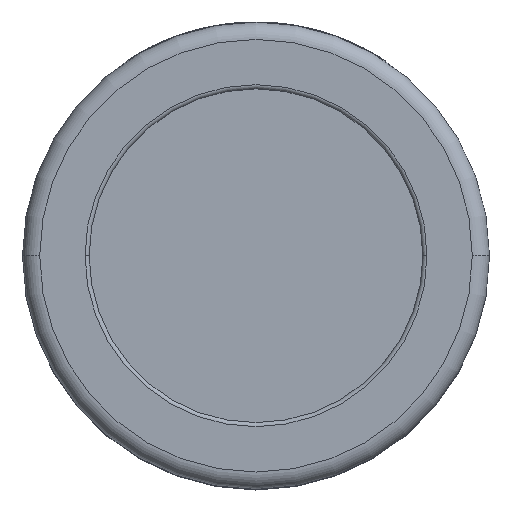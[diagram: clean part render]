
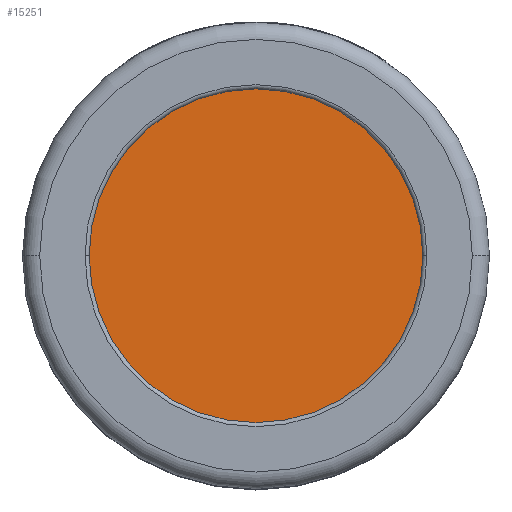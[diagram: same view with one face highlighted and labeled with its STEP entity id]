
A CAD part, top view. The second image highlights one B-rep face of the part: STEP entity #15251.
In plain terms, the highlighted planar face has unit normal (0, 0, 1).
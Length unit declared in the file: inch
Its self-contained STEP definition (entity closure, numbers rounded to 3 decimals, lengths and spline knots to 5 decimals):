
#115 = CIRCLE ( 'NONE', #48316, 1.245 ) ;
#9739 = DIRECTION ( 'NONE',  ( 1., 0., 0. ) ) ;
#11020 = CARTESIAN_POINT ( 'NONE',  ( 0., 0., 3.02 ) ) ;
#12110 = AXIS2_PLACEMENT_3D ( 'NONE', #38533, #48052, #9739 ) ;
#15251 = ADVANCED_FACE ( 'NONE', ( #18159 ), #47771, .T. ) ;
#15502 = DIRECTION ( 'NONE',  ( 0., 0., 1. ) ) ;
#17169 = EDGE_CURVE ( 'NONE', #34790, #29875, #34784, .T. ) ;
#18159 = FACE_OUTER_BOUND ( 'NONE', #26555, .T. ) ;
#25885 = AXIS2_PLACEMENT_3D ( 'NONE', #11020, #15502, #32522 ) ;
#26555 = EDGE_LOOP ( 'NONE', ( #27385, #39840 ) ) ;
#27385 = ORIENTED_EDGE ( 'NONE', *, *, #30702, .T. ) ;
#29875 = VERTEX_POINT ( 'NONE', #41891 ) ;
#30702 = EDGE_CURVE ( 'NONE', #29875, #34790, #115, .T. ) ;
#32522 = DIRECTION ( 'NONE',  ( 1., 0., 0. ) ) ;
#34784 = CIRCLE ( 'NONE', #25885, 1.245 ) ;
#34790 = VERTEX_POINT ( 'NONE', #39951 ) ;
#37140 = DIRECTION ( 'NONE',  ( 0., 0., 1. ) ) ;
#38533 = CARTESIAN_POINT ( 'NONE',  ( 0., 0., 3.02 ) ) ;
#39840 = ORIENTED_EDGE ( 'NONE', *, *, #17169, .T. ) ;
#39951 = CARTESIAN_POINT ( 'NONE',  ( -1.245, 0., 3.02 ) ) ;
#41890 = CARTESIAN_POINT ( 'NONE',  ( 0., 0., 3.02 ) ) ;
#41891 = CARTESIAN_POINT ( 'NONE',  ( 1.245, 0., 3.02 ) ) ;
#47771 = PLANE ( 'NONE',  #12110 ) ;
#48052 = DIRECTION ( 'NONE',  ( 0., 0., 1. ) ) ;
#48316 = AXIS2_PLACEMENT_3D ( 'NONE', #41890, #37140, #54805 ) ;
#54805 = DIRECTION ( 'NONE',  ( 1., 0., 0. ) ) ;
